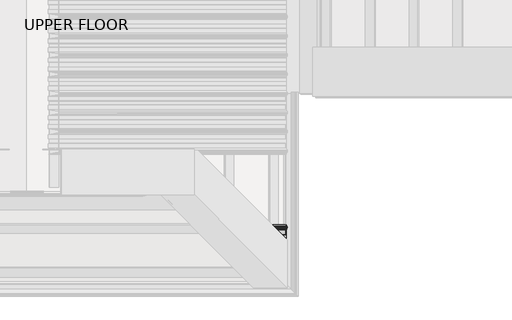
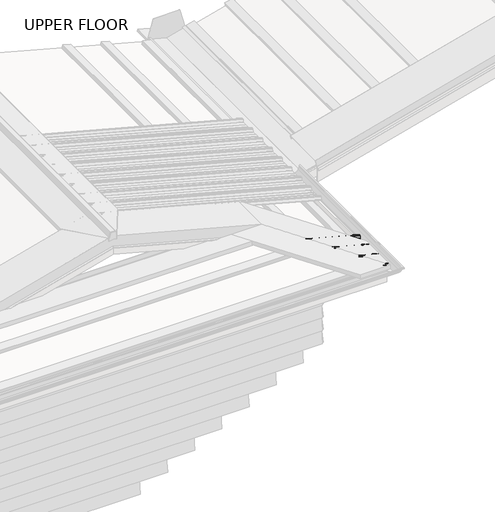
# One storey, part 4 of 8: 1 beam.
"""IFC4 building model written with IfcOpenShell, lengths in millimetres."""

from ifc_helpers import new_model, si_unit, frame, origin, place, context, project, spatial, polyline, circle_curve, ellipse_curve, element, save
from ifc_brep_helpers import plane_surface, cylinder_surface, revolved_surface, advanced_brep

model = new_model("IFC4")

# Units and contexts
model_context = context("Model", 3, world=origin())
ifc_project = project(units=[si_unit("LENGTHUNIT", "METRE", prefix="MILLI")], contexts=[model_context])

# Site, building, storey
site = spatial("IfcSite", under=ifc_project)
building = spatial("IfcBuilding", under=site)
storey = spatial("IfcBuildingStorey", under=building, Name="UPPER FLOOR", Elevation=2700.0)

# Beam
placement = place(None, origin())
element("IfcBeam", 1, ObjectType="3D_Metalcraft T-Rib : 3D_Metalcraft T-Rib", at=placement, inside=storey, context=model_context, shape_type="AdvancedBrep", body=[
    advanced_brep(
    [(-11190.2847188, -26128.4241842, 3266.5991596), (-11190.2847188, -26083.7871546, 3266.5991596), (-11189.8198048, -26080.9661688, 3268.3342426), (-11184.1151497, -26066.3599029, 3289.624305), (-11183.9171679, -26065.2579625, 3290.3631832), (-11183.5554237, -26056.1864455, 3291.7132311), (-11183.9171679, -26047.1149286, 3290.3631832), (-11184.1151497, -26046.0129882, 3289.624305), (-11189.6523711, -26031.8354213, 3268.9591134), (-11189.5093997, -26031.0018416, 3269.4926901), (-11183.9065864, -26045.3473508, 3290.402674), (-11183.7047047, -26046.4036233, 3291.1561068), (-11183.2966046, -26056.1864455, 3292.6791569), (-11183.7047047, -26065.9692678, 3291.1561068), (-11183.9065864, -26067.0255403, 3290.402674), (-11189.6734483, -26081.7910815, 3268.8804523), (-11190.0258998, -26083.8821463, 3267.5650855), (-11190.0258998, -26128.2233714, 3267.5650855), (-11189.5800536, -26132.3395216, 3269.2290062), (-11189.5800536, -26170.0333695, 3269.2290062), (-11190.0258998, -26174.1495197, 3267.5650855), (-11190.0258998, -26216.0914539, 3267.5650855), (-11189.6241453, -26218.3087548, 3269.0644537), (-11183.6182009, -26233.6864455, 3291.4789433), (-11183.2133935, -26235.7739156, 3292.989705), (-11182.7789665, -26246.1864455, 3294.6110086), (-11183.2133935, -26256.5989755, 3292.989705), (-11183.6182009, -26258.6864455, 3291.4789433), (-11189.6241453, -26274.0641363, 3269.0644537), (-11190.0258998, -26276.2814372, 3267.5650855), (-11190.0258998, -26318.2233714, 3267.5650855), (-11189.5800536, -26322.3395216, 3269.2290062), (-11189.5800536, -26360.0333695, 3269.2290062), (-11190.0258998, -26364.1495197, 3267.5650855), (-11190.0258998, -26406.0914539, 3267.5650855), (-11189.6241453, -26408.3087548, 3269.0644537), (-11183.6182009, -26423.6864455, 3291.4789433), (-11183.2133935, -26425.7739156, 3292.989705), (-11182.7789665, -26436.1864455, 3294.6110086), (-11183.2133935, -26446.5989755, 3292.989705), (-11183.6182009, -26448.6864455, 3291.4789433), (-11189.6241453, -26464.0641363, 3269.0644537), (-11190.0258998, -26466.2814372, 3267.5650855), (-11190.0258998, -26508.2233714, 3267.5650855), (-11189.5800536, -26512.3395216, 3269.2290062), (-11189.5800536, -26550.0333695, 3269.2290062), (-11190.0258998, -26554.1495197, 3267.5650855), (-11190.0258998, -26596.0914539, 3267.5650855), (-11189.6241453, -26598.3087548, 3269.0644537), (-11183.6182009, -26613.6864455, 3291.4789433), (-11183.2133935, -26615.7739156, 3292.989705), (-11182.7789665, -26626.1864455, 3294.6110086), (-11183.2133935, -26636.5989755, 3292.989705), (-11183.6182009, -26638.6864455, 3291.4789433), (-11185.7866628, -26644.2386009, 3283.3861334), (-11186.1236029, -26643.9016609, 3282.1286558), (-11183.7636149, -26637.8591199, 3290.9362508), (-11183.459008, -26636.2836425, 3292.0730592), (-11183.0377856, -26626.1864455, 3293.6450828), (-11183.459008, -26616.0892486, 3292.0730592), (-11183.7636149, -26614.5137712, 3290.9362508), (-11189.8198048, -26599.0074314, 3268.3342426), (-11190.2847188, -26596.1864455, 3266.5991596), (-11190.2847188, -26553.9487069, 3266.5991596), (-11189.8388726, -26549.8325567, 3268.2630804), (-11189.8388726, -26512.5403344, 3268.2630804), (-11190.2847188, -26508.4241842, 3266.5991596), (-11190.2847188, -26466.1864455, 3266.5991596), (-11189.8198048, -26463.3654597, 3268.3342426), (-11183.7636149, -26447.8591199, 3290.9362508), (-11183.459008, -26446.2836425, 3292.0730592), (-11183.0377856, -26436.1864455, 3293.6450828), (-11183.459008, -26426.0892486, 3292.0730592), (-11183.7636149, -26424.5137712, 3290.9362508), (-11189.8198048, -26409.0074314, 3268.3342426), (-11190.2847188, -26406.1864455, 3266.5991596), (-11190.2847188, -26363.9487069, 3266.5991596), (-11189.8388726, -26359.8325567, 3268.2630804), (-11189.8388726, -26322.5403344, 3268.2630804), (-11190.2847188, -26318.4241842, 3266.5991596), (-11190.2847188, -26276.1864455, 3266.5991596), (-11189.8198048, -26273.3654597, 3268.3342426), (-11183.7636149, -26257.8591199, 3290.9362508), (-11183.459008, -26256.2836425, 3292.0730592), (-11183.0377856, -26246.1864455, 3293.6450828), (-11183.459008, -26236.0892486, 3292.0730592), (-11183.7636149, -26234.5137712, 3290.9362508), (-11189.8198048, -26219.0074314, 3268.3342426), (-11190.2847188, -26216.1864455, 3266.5991596), (-11190.2847188, -26173.9487069, 3266.5991596), (-11189.8388726, -26169.8325567, 3268.2630804), (-11189.8388726, -26132.5403344, 3268.2630804), (-11697.4849293, -26132.5403344, 3404.2864313), (-11701.6010795, -26128.4241842, 3403.6059656), (-11660.1927071, -26169.8325567, 3394.2940105), (-11656.0765568, -26173.9487069, 3391.4077065), (-11613.8388182, -26216.1864455, 3380.0901385), (-11611.0178324, -26219.0074314, 3381.1939139), (-11595.5114925, -26234.5137712, 3401.2637621), (-11593.9360151, -26236.0892486, 3402.0600418), (-11583.8388182, -26246.1864455, 3401.0393958), (-11573.7416213, -26256.2836425, 3396.6489702), (-11572.1661438, -26257.8591199, 3395.0083948), (-11556.659804, -26273.3654597, 3366.6287242), (-11553.8388182, -26276.1864455, 3364.013187), (-11511.6010795, -26318.4241842, 3352.695619), (-11507.4849293, -26322.5403344, 3353.3760847), (-11470.1927071, -26359.8325567, 3343.3836639), (-11466.0765568, -26363.9487069, 3340.4973599), (-11423.8388182, -26406.1864455, 3329.179792), (-11421.0178324, -26409.0074314, 3330.2835674), (-11405.5114925, -26424.5137712, 3350.3534155), (-11403.9360151, -26426.0892486, 3351.1496952), (-11393.8388182, -26436.1864455, 3350.1290492), (-11383.7416213, -26446.2836425, 3345.7386237), (-11382.1661438, -26447.8591199, 3344.0980482), (-11366.659804, -26463.3654597, 3315.7183776), (-11363.8388182, -26466.1864455, 3313.1028404), (-11321.6010795, -26508.4241842, 3301.7852724), (-11317.4849293, -26512.5403344, 3302.4657382), (-11280.1927071, -26549.8325567, 3292.4733174), (-11276.0765568, -26553.9487069, 3289.5870134), (-11233.8388182, -26596.1864455, 3278.2694454), (-11231.0178323, -26599.0074314, 3279.3732208), (-11215.5114925, -26614.5137712, 3299.443069), (-11213.9360151, -26616.0892486, 3300.2393486), (-11203.8388182, -26626.1864455, 3299.2187027), (-11193.7416213, -26636.2836425, 3294.8282771), (-11192.1661438, -26637.8591199, 3293.1877017), (-11191.3388182, -26638.6864455, 3293.5476765), (-11193.4262882, -26636.5989755, 3295.7262419), (-11203.8388182, -26626.1864455, 3300.2539788), (-11214.2513482, -26615.7739156, 3301.3062999), (-11216.3388182, -26613.6864455, 3300.2464063), (-11231.716509, -26598.3087548, 3280.3430686), (-11233.9338098, -26596.0914539, 3279.3301745), (-11275.875744, -26554.1495197, 3290.5684819), (-11279.9918942, -26550.0333695, 3293.4547859), (-11317.6857421, -26512.3395216, 3303.554822), (-11321.8018924, -26508.2233714, 3302.8743563), (-11363.7438265, -26466.2814372, 3314.1126637), (-11365.9611274, -26464.0641363, 3316.3138057), (-11381.3388182, -26448.6864455, 3344.4580231), (-11383.4262882, -26446.5989755, 3346.6365885), (-11393.8388182, -26436.1864455, 3351.1643254), (-11404.2513482, -26425.7739156, 3352.2166465), (-11406.3388182, -26423.6864455, 3351.1567529), (-11421.716509, -26408.3087548, 3331.2534151), (-11423.9338098, -26406.0914539, 3330.2405211), (-11465.875744, -26364.1495197, 3341.4788285), (-11469.9918942, -26360.0333695, 3344.3651325), (-11507.6857421, -26322.3395216, 3354.4651686), (-11511.8018924, -26318.2233714, 3353.7847028), (-11553.7438265, -26276.2814372, 3365.0230102), (-11555.9611274, -26274.0641363, 3367.2241522), (-11571.3388182, -26258.6864455, 3395.3683696), (-11573.4262882, -26256.5989755, 3397.546935), (-11583.8388182, -26246.1864455, 3402.074672), (-11594.2513482, -26235.7739156, 3403.126993), (-11596.3388182, -26233.6864455, 3402.0670995), (-11611.716509, -26218.3087548, 3382.1637617), (-11613.9338098, -26216.0914539, 3381.1508676), (-11655.875744, -26174.1495197, 3392.389175), (-11659.9918942, -26170.0333695, 3395.275479), (-11697.6857421, -26132.3395216, 3405.3755151), (-11701.8018924, -26128.2233714, 3404.6950494), (-11746.1431174, -26083.8821463, 3416.5762448), (-11748.2341822, -26081.7910815, 3418.5463499), (-11762.9997235, -26067.0255403, 3445.5702125), (-11764.0559959, -26065.9692678, 3446.6607666), (-11773.8388182, -26056.1864455, 3450.9144661), (-11783.6216404, -26046.4036233, 3451.9033653), (-11784.6779129, -26045.3473508, 3451.3788658), (-11799.0234221, -26031.0018416, 3432.8114802), (-11798.1898425, -26031.8354213, 3432.0162374), (-11784.0122755, -26046.0129882, 3450.3662554), (-11782.9103352, -26047.1149286, 3450.8629186), (-11773.8388182, -26056.1864455, 3449.8791899), (-11764.7673012, -26065.2579625, 3446.0015073), (-11763.6653608, -26066.3599029, 3444.914316), (-11749.0590949, -26080.9661688, 3418.1819588), (-11746.2381091, -26083.7871546, 3415.5664216)],
    [
        (0, 1),
        (1, 2, circle_curve(frame((-11189.1617776, -26084.5674758, 3270.7900332), z_axis=(0.9659258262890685, 0.0, -0.2588190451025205), x_axis=(-0.21143792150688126, -0.5767320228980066, -0.7890970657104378)), 4.4083239)),
        (2, 3),
        (3, 4, circle_curve(frame((-11184.3744882, -26064.847858, 3288.6564406), z_axis=(-0.9659258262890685, 0.0, 0.2588190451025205), x_axis=(-0.05851580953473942, -0.9741069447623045, -0.21838397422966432)), 1.8139178)),
        (4, 5, circle_curve(frame((-11191.3457578, -26056.1923604, 3262.6393084), z_axis=(-0.9659258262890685, 0.0, 0.2588190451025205), x_axis=(5.086070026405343e-05, -0.9999999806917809, 0.00018981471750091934)), 30.0995402)),
        (5, 6, circle_curve(frame((-11191.3457578, -26056.1805307, 3262.6393084), z_axis=(-0.9659258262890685, 0.0, 0.2588190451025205), x_axis=(0.07795303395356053, -0.9535649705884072, 0.2909246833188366)), 30.0995402)),
        (6, 7, circle_curve(frame((-11184.3744882, -26047.5250331, 3288.6564406), z_axis=(-0.9659258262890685, 0.0, 0.2588190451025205), x_axis=(0.2157462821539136, -0.5523993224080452, 0.8051760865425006)), 1.8139178)),
        (7, 8),
        (8, 9, circle_curve(frame((-11189.5808854, -26031.4186315, 3269.2259017), z_axis=(0.9659258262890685, 0.0, -0.2588190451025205), x_axis=(-0.21574628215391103, 0.5523993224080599, -0.8051760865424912)), 0.5)),
        (9, 10),
        (10, 11, circle_curve(frame((-11184.1807144, -26046.9456244, 3289.3796144), z_axis=(0.9659258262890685, 0.0, -0.2588190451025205), x_axis=(-0.07316314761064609, 0.9592140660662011, -0.2730485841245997)), 1.9173616)),
        (11, 12, circle_curve(frame((-11191.3457578, -26056.1805307, 3262.6393084), z_axis=(0.9659258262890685, 0.0, -0.2588190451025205), x_axis=(4.922528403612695e-05, 0.9999999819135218, 0.00018371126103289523)), 31.0995402)),
        (12, 13, circle_curve(frame((-11191.3457578, -26056.1923604, 3262.6393084), z_axis=(0.9659258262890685, 0.0, -0.2588190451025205), x_axis=(0.0813661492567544, 0.9492989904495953, 0.30366260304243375)), 31.0995402)),
        (13, 14, circle_curve(frame((-11184.1807144, -26065.4272667, 3289.3796144), z_axis=(0.9659258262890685, 0.0, -0.2588190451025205), x_axis=(0.21574628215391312, 0.5523993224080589, 0.8051760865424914)), 1.9173616)),
        (14, 15),
        (15, 16, circle_curve(frame((-11189.1617776, -26084.5674758, 3270.7900332), z_axis=(-0.9659258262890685, 0.0, 0.2588190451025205), x_axis=(0.05204210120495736, 0.9795758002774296, 0.19422376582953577)), 3.4083239)),
        (16, 17),
        (17, 18),
        (18, 19),
        (19, 20),
        (20, 21),
        (21, 22, circle_curve(frame((-11189.1617776, -26215.4061244, 3270.7900332), z_axis=(-0.9659258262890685, 0.0, 0.2588190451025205), x_axis=(-0.22041802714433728, 0.5241436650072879, -0.8226112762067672)), 3.4083239)),
        (22, 23),
        (23, 24, circle_curve(frame((-11184.227286, -26237.0793711, 3289.2058067), z_axis=(0.9659258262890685, 0.0, -0.2588190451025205), x_axis=(-0.08182671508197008, 0.9487078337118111, -0.30538145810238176)), 4.1291741)),
        (24, 25, circle_curve(frame((-11191.3457578, -26246.1805307, 3262.6393084), z_axis=(0.9659258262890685, 0.0, -0.2588190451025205), x_axis=(4.6250931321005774e-05, 0.999999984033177, 0.0001726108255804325)), 33.0995402)),
        (25, 26, circle_curve(frame((-11191.3457578, -26246.1923604, 3262.6393084), z_axis=(0.9659258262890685, 0.0, -0.2588190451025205), x_axis=(0.08137364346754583, 0.9492894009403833, 0.30369057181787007)), 33.0995402)),
        (26, 27, circle_curve(frame((-11184.227286, -26255.29352, 3289.2058067), z_axis=(0.9659258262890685, 0.0, -0.2588190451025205), x_axis=(0.21267055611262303, 0.5699261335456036, 0.7936973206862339)), 4.1291741)),
        (27, 28),
        (28, 29, circle_curve(frame((-11189.1617776, -26276.9667667, 3270.7900332), z_axis=(-0.9659258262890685, 0.0, 0.2588190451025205), x_axis=(0.05204210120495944, 0.979575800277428, 0.19422376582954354)), 3.4083239)),
        (29, 30),
        (30, 31),
        (31, 32),
        (32, 33),
        (33, 34),
        (34, 35, circle_curve(frame((-11189.1617776, -26405.4061244, 3270.7900332), z_axis=(-0.9659258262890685, 0.0, 0.2588190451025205), x_axis=(-0.22041802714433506, 0.5241436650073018, -0.8226112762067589)), 3.4083239)),
        (35, 36),
        (36, 37, circle_curve(frame((-11184.227286, -26427.0793711, 3289.2058067), z_axis=(0.9659258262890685, 0.0, -0.2588190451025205), x_axis=(-0.08182671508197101, 0.9487078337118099, -0.30538145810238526)), 4.1291741)),
        (37, 38, circle_curve(frame((-11191.3457578, -26436.1805307, 3262.6393084), z_axis=(0.9659258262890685, 0.0, -0.2588190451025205), x_axis=(4.6250931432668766e-05, 0.9999999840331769, 0.00017261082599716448)), 33.0995402)),
        (38, 39, circle_curve(frame((-11191.3457578, -26436.1923604, 3262.6393084), z_axis=(0.9659258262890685, 0.0, -0.2588190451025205), x_axis=(0.08137364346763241, 0.9492894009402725, 0.30369057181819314)), 33.0995402)),
        (39, 40, circle_curve(frame((-11184.227286, -26445.29352, 3289.2058067), z_axis=(0.9659258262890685, 0.0, -0.2588190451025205), x_axis=(0.21267055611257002, 0.569926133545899, 0.793697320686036)), 4.1291741)),
        (40, 41),
        (41, 42, circle_curve(frame((-11189.1617776, -26466.9667667, 3270.7900332), z_axis=(-0.9659258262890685, 0.0, 0.2588190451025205), x_axis=(0.05204210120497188, 0.9795758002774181, 0.19422376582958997)), 3.4083239)),
        (42, 43),
        (43, 44),
        (44, 45),
        (45, 46),
        (46, 47),
        (47, 48, circle_curve(frame((-11189.1617776, -26595.4061244, 3270.7900332), z_axis=(-0.9659258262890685, 0.0, 0.2588190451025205), x_axis=(-0.22041802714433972, 0.5241436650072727, -0.8226112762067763)), 3.4083239)),
        (48, 49),
        (49, 50, circle_curve(frame((-11184.227286, -26617.0793711, 3289.2058067), z_axis=(0.9659258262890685, 0.0, -0.2588190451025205), x_axis=(-0.08182671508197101, 0.9487078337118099, -0.30538145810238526)), 4.1291741)),
        (50, 51, circle_curve(frame((-11191.3457578, -26626.1805307, 3262.6393084), z_axis=(0.9659258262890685, 0.0, -0.2588190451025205), x_axis=(4.6250931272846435e-05, 0.999999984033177, 0.00017261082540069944)), 33.0995402)),
        (51, 52, circle_curve(frame((-11191.3457578, -26626.1923604, 3262.6393084), z_axis=(0.9659258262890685, 0.0, -0.2588190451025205), x_axis=(0.08137364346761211, 0.9492894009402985, 0.30369057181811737)), 33.0995402)),
        (52, 53, circle_curve(frame((-11184.227286, -26635.29352, 3289.2058067), z_axis=(0.9659258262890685, 0.0, -0.2588190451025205), x_axis=(0.21267055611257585, 0.5699261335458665, 0.7936973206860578)), 4.1291741)),
        (53, 54),
        (54, 55),
        (55, 56),
        (56, 57, circle_curve(frame((-11184.227286, -26635.29352, 3289.2058067), z_axis=(-0.9659258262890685, 0.0, 0.2588190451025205), x_axis=(-0.08189462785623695, -0.9486203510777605, -0.3056349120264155)), 3.1291741)),
        (57, 58, circle_curve(frame((-11191.3457578, -26626.1923604, 3262.6393084), z_axis=(-0.9659258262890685, 0.0, 0.2588190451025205), x_axis=(4.769176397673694e-05, -0.9999999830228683, 0.00017798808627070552)), 32.0995402)),
        (58, 59, circle_curve(frame((-11191.3457578, -26626.1805307, 3262.6393084), z_axis=(-0.9659258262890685, 0.0, 0.2588190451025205), x_axis=(0.08136614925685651, -0.9492989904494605, 0.30366260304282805)), 32.0995402)),
        (59, 60, circle_curve(frame((-11184.227286, -26617.0793711, 3289.2058067), z_axis=(-0.9659258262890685, 0.0, 0.2588190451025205), x_axis=(0.2122049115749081, -0.5725113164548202, 0.7919595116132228)), 3.1291741)),
        (60, 61),
        (61, 62, circle_curve(frame((-11189.1617776, -26595.4061244, 3270.7900332), z_axis=(0.9659258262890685, 0.0, -0.2588190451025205), x_axis=(0.045813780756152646, -0.9842088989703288, 0.17097935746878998)), 4.4083239)),
        (62, 63),
        (63, 64),
        (64, 65),
        (65, 66),
        (66, 67),
        (67, 68, circle_curve(frame((-11189.1617776, -26466.9667667, 3270.7900332), z_axis=(0.9659258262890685, 0.0, -0.2588190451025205), x_axis=(-0.2114379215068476, -0.5767320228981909, -0.7890970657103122)), 4.4083239)),
        (68, 69),
        (69, 70, circle_curve(frame((-11184.227286, -26445.29352, 3289.2058067), z_axis=(-0.9659258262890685, 0.0, 0.2588190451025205), x_axis=(-0.08189462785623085, -0.9486203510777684, -0.30563491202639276)), 3.1291741)),
        (70, 71, circle_curve(frame((-11191.3457578, -26436.1923604, 3262.6393084), z_axis=(-0.9659258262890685, 0.0, 0.2588190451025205), x_axis=(4.769176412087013e-05, -0.9999999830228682, 0.0001779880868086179)), 32.0995402)),
        (71, 72, circle_curve(frame((-11191.3457578, -26436.1805307, 3262.6393084), z_axis=(-0.9659258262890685, 0.0, 0.2588190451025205), x_axis=(0.08136614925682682, -0.9492989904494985, 0.3036626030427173)), 32.0995402)),
        (72, 73, circle_curve(frame((-11184.227286, -26427.0793711, 3289.2058067), z_axis=(-0.9659258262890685, 0.0, 0.2588190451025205), x_axis=(0.2122049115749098, -0.5725113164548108, 0.7919595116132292)), 3.1291741)),
        (73, 74),
        (74, 75, circle_curve(frame((-11189.1617776, -26405.4061244, 3270.7900332), z_axis=(0.9659258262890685, 0.0, -0.2588190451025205), x_axis=(0.045813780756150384, -0.9842088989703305, 0.1709793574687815)), 4.4083239)),
        (75, 76),
        (76, 77),
        (77, 78),
        (78, 79),
        (79, 80),
        (80, 81, circle_curve(frame((-11189.1617776, -26276.9667667, 3270.7900332), z_axis=(0.9659258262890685, 0.0, -0.2588190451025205), x_axis=(-0.21143792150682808, -0.5767320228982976, -0.7890970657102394)), 4.4083239)),
        (81, 82),
        (82, 83, circle_curve(frame((-11184.227286, -26255.29352, 3289.2058067), z_axis=(-0.9659258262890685, 0.0, 0.2588190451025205), x_axis=(-0.08189462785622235, -0.9486203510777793, -0.305634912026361)), 3.1291741)),
        (83, 84, circle_curve(frame((-11191.3457578, -26246.1923604, 3262.6393084), z_axis=(-0.9659258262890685, 0.0, 0.2588190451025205), x_axis=(4.7691764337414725e-05, -0.999999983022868, 0.00017798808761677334)), 32.0995402)),
        (84, 85, circle_curve(frame((-11191.3457578, -26246.1805307, 3262.6393084), z_axis=(-0.9659258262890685, 0.0, 0.2588190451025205), x_axis=(0.08136614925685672, -0.9492989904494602, 0.3036626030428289)), 32.0995402)),
        (85, 86, circle_curve(frame((-11184.227286, -26237.0793711, 3289.2058067), z_axis=(-0.9659258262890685, 0.0, 0.2588190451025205), x_axis=(0.21220491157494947, -0.5725113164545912, 0.7919595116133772)), 3.1291741)),
        (86, 87),
        (87, 88, circle_curve(frame((-11189.1617776, -26215.4061244, 3270.7900332), z_axis=(0.9659258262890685, 0.0, -0.2588190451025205), x_axis=(0.045813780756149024, -0.9842088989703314, 0.17097935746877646)), 4.4083239)),
        (88, 89),
        (89, 90),
        (90, 91),
        (91, 0),
        (91, 92),
        (92, 93),
        (93, 0),
        (90, 94),
        (94, 92),
        (89, 95),
        (95, 94),
        (88, 96),
        (96, 95),
        (87, 97),
        (97, 96, ellipse_curve(frame((-11614.6191394, -26215.4061244, 3384.7909897), z_axis=(0.7071067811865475, 0.7071067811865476, 0.0), x_axis=(0.6612248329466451, -0.6612248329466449, -0.35434932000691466)), 6.4542341, 4.4083239)),
        (86, 98),
        (98, 97),
        (85, 99),
        (99, 98, ellipse_curve(frame((-11592.9458926, -26237.0793711, 3398.7216273), z_axis=(-0.7071067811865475, -0.7071067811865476, 0.0), x_axis=(0.6612248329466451, -0.6612248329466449, -0.35434932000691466)), 4.5814288, 3.1291741)),
        (84, 100),
        (100, 99, ellipse_curve(frame((-11583.8447331, -26246.1805307, 3367.8090919), z_axis=(-0.7071067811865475, -0.7071067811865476, 0.0), x_axis=(0.6612248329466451, -0.6612248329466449, -0.35434932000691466)), 46.9969887, 32.0995402)),
        (83, 101),
        (101, 100, ellipse_curve(frame((-11583.8329033, -26246.1923604, 3367.8059221), z_axis=(-0.7071067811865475, -0.7071067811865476, 0.0), x_axis=(0.6612248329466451, -0.6612248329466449, -0.35434932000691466)), 46.9969887, 32.0995402)),
        (82, 102),
        (102, 101, ellipse_curve(frame((-11574.7317437, -26255.29352, 3393.8411608), z_axis=(-0.7071067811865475, -0.7071067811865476, 0.0), x_axis=(0.6612248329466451, -0.6612248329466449, -0.35434932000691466)), 4.5814288, 3.1291741)),
        (81, 103),
        (103, 102),
        (80, 104),
        (104, 103, ellipse_curve(frame((-11553.058497, -26276.9667667, 3368.2958653), z_axis=(0.7071067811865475, 0.7071067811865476, 0.0), x_axis=(0.6612248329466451, -0.6612248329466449, -0.35434932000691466)), 6.4542341, 4.4083239)),
        (79, 105),
        (105, 104),
        (78, 106),
        (106, 105),
        (77, 107),
        (107, 106),
        (76, 108),
        (108, 107),
        (75, 109),
        (109, 108),
        (74, 110),
        (110, 109, ellipse_curve(frame((-11424.6191394, -26405.4061244, 3333.8806432), z_axis=(0.7071067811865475, 0.7071067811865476, 0.0), x_axis=(0.6612248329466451, -0.6612248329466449, -0.35434932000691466)), 6.4542341, 4.4083239)),
        (73, 111),
        (111, 110),
        (72, 112),
        (112, 111, ellipse_curve(frame((-11402.9458926, -26427.0793711, 3347.8112807), z_axis=(-0.7071067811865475, -0.7071067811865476, 0.0), x_axis=(0.6612248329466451, -0.6612248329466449, -0.35434932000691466)), 4.5814288, 3.1291741)),
        (71, 113),
        (113, 112, ellipse_curve(frame((-11393.8447331, -26436.1805307, 3316.8987453), z_axis=(-0.7071067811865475, -0.7071067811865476, 0.0), x_axis=(0.6612248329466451, -0.6612248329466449, -0.35434932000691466)), 46.9969887, 32.0995402)),
        (70, 114),
        (114, 113, ellipse_curve(frame((-11393.8329033, -26436.1923604, 3316.8955755), z_axis=(-0.7071067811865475, -0.7071067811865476, 0.0), x_axis=(0.6612248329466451, -0.6612248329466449, -0.35434932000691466)), 46.9969887, 32.0995402)),
        (69, 115),
        (115, 114, ellipse_curve(frame((-11384.7317437, -26445.29352, 3342.9308142), z_axis=(-0.7071067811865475, -0.7071067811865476, 0.0), x_axis=(0.6612248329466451, -0.6612248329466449, -0.35434932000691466)), 4.5814288, 3.1291741)),
        (68, 116),
        (116, 115),
        (67, 117),
        (117, 116, ellipse_curve(frame((-11363.058497, -26466.9667667, 3317.3855188), z_axis=(0.7071067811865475, 0.7071067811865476, 0.0), x_axis=(0.6612248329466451, -0.6612248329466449, -0.35434932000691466)), 6.4542341, 4.4083239)),
        (66, 118),
        (118, 117),
        (65, 119),
        (119, 118),
        (64, 120),
        (120, 119),
        (63, 121),
        (121, 120),
        (62, 122),
        (122, 121),
        (61, 123),
        (123, 122, ellipse_curve(frame((-11234.6191394, -26595.4061244, 3282.9702966), z_axis=(0.7071067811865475, 0.7071067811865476, 0.0), x_axis=(0.6612248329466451, -0.6612248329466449, -0.35434932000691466)), 6.4542341, 4.4083239)),
        (60, 124),
        (124, 123),
        (59, 125),
        (125, 124, ellipse_curve(frame((-11212.9458926, -26617.0793711, 3296.9009342), z_axis=(-0.7071067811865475, -0.7071067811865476, 0.0), x_axis=(0.6612248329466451, -0.6612248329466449, -0.35434932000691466)), 4.5814288, 3.1291741)),
        (58, 126),
        (126, 125, ellipse_curve(frame((-11203.8447331, -26626.1805307, 3265.9883987), z_axis=(-0.7071067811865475, -0.7071067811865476, 0.0), x_axis=(0.6612248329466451, -0.6612248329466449, -0.35434932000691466)), 46.9969887, 32.0995402)),
        (57, 127),
        (127, 126, ellipse_curve(frame((-11203.8329033, -26626.1923604, 3265.985229), z_axis=(-0.7071067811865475, -0.7071067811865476, 0.0), x_axis=(0.6612248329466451, -0.6612248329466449, -0.35434932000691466)), 46.9969887, 32.0995402)),
        (56, 128),
        (128, 127, ellipse_curve(frame((-11194.7317437, -26635.29352, 3292.0204677), z_axis=(-0.7071067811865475, -0.7071067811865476, 0.0), x_axis=(0.6612248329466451, -0.6612248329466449, -0.35434932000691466)), 4.5814288, 3.1291741)),
        (55, 128),
        (53, 129),
        (129, 54),
        (52, 130),
        (130, 129, ellipse_curve(frame((-11194.7317437, -26635.29352, 3292.0204677), z_axis=(0.7071067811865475, 0.7071067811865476, 0.0), x_axis=(0.6612248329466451, -0.6612248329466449, -0.35434932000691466)), 6.0455304, 4.1291741)),
        (51, 131),
        (131, 130, ellipse_curve(frame((-11203.8329033, -26626.1923604, 3265.985229), z_axis=(0.7071067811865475, 0.7071067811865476, 0.0), x_axis=(0.6612248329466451, -0.6612248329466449, -0.35434932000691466)), 48.4610903, 33.0995402)),
        (50, 132),
        (132, 131, ellipse_curve(frame((-11203.8447331, -26626.1805307, 3265.9883987), z_axis=(0.7071067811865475, 0.7071067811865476, 0.0), x_axis=(0.6612248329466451, -0.6612248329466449, -0.35434932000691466)), 48.4610903, 33.0995402)),
        (49, 133),
        (133, 132, ellipse_curve(frame((-11212.9458926, -26617.0793711, 3296.9009342), z_axis=(0.7071067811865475, 0.7071067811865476, 0.0), x_axis=(0.6612248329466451, -0.6612248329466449, -0.35434932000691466)), 6.0455304, 4.1291741)),
        (48, 134),
        (134, 133),
        (47, 135),
        (135, 134, ellipse_curve(frame((-11234.6191394, -26595.4061244, 3282.9702966), z_axis=(-0.7071067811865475, -0.7071067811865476, 0.0), x_axis=(0.6612248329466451, -0.6612248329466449, -0.35434932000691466)), 4.9901325, 3.4083239)),
        (46, 136),
        (136, 135),
        (45, 137),
        (137, 136),
        (44, 138),
        (138, 137),
        (43, 139),
        (139, 138),
        (42, 140),
        (140, 139),
        (41, 141),
        (141, 140, ellipse_curve(frame((-11363.058497, -26466.9667667, 3317.3855188), z_axis=(-0.7071067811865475, -0.7071067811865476, 0.0), x_axis=(0.6612248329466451, -0.6612248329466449, -0.35434932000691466)), 4.9901325, 3.4083239)),
        (40, 142),
        (142, 141),
        (39, 143),
        (143, 142, ellipse_curve(frame((-11384.7317437, -26445.29352, 3342.9308142), z_axis=(0.7071067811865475, 0.7071067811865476, 0.0), x_axis=(0.6612248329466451, -0.6612248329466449, -0.35434932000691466)), 6.0455304, 4.1291741)),
        (38, 144),
        (144, 143, ellipse_curve(frame((-11393.8329033, -26436.1923604, 3316.8955755), z_axis=(0.7071067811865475, 0.7071067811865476, 0.0), x_axis=(0.6612248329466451, -0.6612248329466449, -0.35434932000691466)), 48.4610903, 33.0995402)),
        (37, 145),
        (145, 144, ellipse_curve(frame((-11393.8447331, -26436.1805307, 3316.8987453), z_axis=(0.7071067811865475, 0.7071067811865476, 0.0), x_axis=(0.6612248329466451, -0.6612248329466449, -0.35434932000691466)), 48.4610903, 33.0995402)),
        (36, 146),
        (146, 145, ellipse_curve(frame((-11402.9458926, -26427.0793711, 3347.8112807), z_axis=(0.7071067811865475, 0.7071067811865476, 0.0), x_axis=(0.6612248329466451, -0.6612248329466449, -0.35434932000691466)), 6.0455304, 4.1291741)),
        (35, 147),
        (147, 146),
        (34, 148),
        (148, 147, ellipse_curve(frame((-11424.6191394, -26405.4061244, 3333.8806432), z_axis=(-0.7071067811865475, -0.7071067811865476, 0.0), x_axis=(0.6612248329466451, -0.6612248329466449, -0.35434932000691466)), 4.9901325, 3.4083239)),
        (33, 149),
        (149, 148),
        (32, 150),
        (150, 149),
        (31, 151),
        (151, 150),
        (30, 152),
        (152, 151),
        (29, 153),
        (153, 152),
        (28, 154),
        (154, 153, ellipse_curve(frame((-11553.058497, -26276.9667667, 3368.2958653), z_axis=(-0.7071067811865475, -0.7071067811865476, 0.0), x_axis=(0.6612248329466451, -0.6612248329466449, -0.35434932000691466)), 4.9901325, 3.4083239)),
        (27, 155),
        (155, 154),
        (26, 156),
        (156, 155, ellipse_curve(frame((-11574.7317437, -26255.29352, 3393.8411608), z_axis=(0.7071067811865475, 0.7071067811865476, 0.0), x_axis=(0.6612248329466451, -0.6612248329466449, -0.35434932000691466)), 6.0455304, 4.1291741)),
        (25, 157),
        (157, 156, ellipse_curve(frame((-11583.8329033, -26246.1923604, 3367.8059221), z_axis=(0.7071067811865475, 0.7071067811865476, 0.0), x_axis=(0.6612248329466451, -0.6612248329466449, -0.35434932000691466)), 48.4610903, 33.0995402)),
        (24, 158),
        (158, 157, ellipse_curve(frame((-11583.8447331, -26246.1805307, 3367.8090919), z_axis=(0.7071067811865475, 0.7071067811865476, 0.0), x_axis=(0.6612248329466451, -0.6612248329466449, -0.35434932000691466)), 48.4610903, 33.0995402)),
        (23, 159),
        (159, 158, ellipse_curve(frame((-11592.9458926, -26237.0793711, 3398.7216273), z_axis=(0.7071067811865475, 0.7071067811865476, 0.0), x_axis=(0.6612248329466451, -0.6612248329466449, -0.35434932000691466)), 6.0455304, 4.1291741)),
        (22, 160),
        (160, 159),
        (21, 161),
        (161, 160, ellipse_curve(frame((-11614.6191394, -26215.4061244, 3384.7909897), z_axis=(-0.7071067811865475, -0.7071067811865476, 0.0), x_axis=(0.6612248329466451, -0.6612248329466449, -0.35434932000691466)), 4.9901325, 3.4083239)),
        (20, 162),
        (162, 161),
        (19, 163),
        (163, 162),
        (18, 164),
        (164, 163),
        (17, 165),
        (165, 164),
        (16, 166),
        (166, 165),
        (15, 167),
        (167, 166, ellipse_curve(frame((-11745.4577879, -26084.5674758, 3419.8490999), z_axis=(-0.7071067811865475, -0.7071067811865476, 0.0), x_axis=(0.6612248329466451, -0.6612248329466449, -0.35434932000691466)), 4.9901325, 3.4083239)),
        (14, 168),
        (168, 167),
        (13, 169),
        (169, 168, ellipse_curve(frame((-11764.597997, -26065.4272667, 3444.9019566), z_axis=(0.7071067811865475, 0.7071067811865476, 0.0), x_axis=(0.6612248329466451, -0.6612248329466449, -0.35434932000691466)), 2.8072122, 1.9173616)),
        (12, 170),
        (170, 169, ellipse_curve(frame((-11773.8329033, -26056.1923604, 3418.7162686), z_axis=(0.7071067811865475, 0.7071067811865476, 0.0), x_axis=(0.6612248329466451, -0.6612248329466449, -0.35434932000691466)), 45.532887, 31.0995402)),
        (11, 171),
        (171, 170, ellipse_curve(frame((-11773.8447331, -26056.1805307, 3418.7194384), z_axis=(0.7071067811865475, 0.7071067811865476, 0.0), x_axis=(0.6612248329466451, -0.6612248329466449, -0.35434932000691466)), 45.532887, 31.0995402)),
        (10, 172),
        (172, 171, ellipse_curve(frame((-11783.0796393, -26046.9456244, 3449.8540977), z_axis=(0.7071067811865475, 0.7071067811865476, 0.0), x_axis=(0.6612248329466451, -0.6612248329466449, -0.35434932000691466)), 2.8072122, 1.9173616)),
        (9, 173),
        (173, 172),
        (8, 174),
        (174, 173, ellipse_curve(frame((-11798.6066323, -26031.4186315, 3432.4138588), z_axis=(0.7071067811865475, 0.7071067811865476, 0.0), x_axis=(0.6612248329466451, -0.6612248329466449, -0.35434932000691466)), 0.7320508, 0.5)),
        (7, 175),
        (175, 174),
        (6, 176),
        (176, 175, ellipse_curve(frame((-11782.5002306, -26047.5250331, 3448.9237503), z_axis=(-0.7071067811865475, -0.7071067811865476, 0.0), x_axis=(0.6612248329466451, -0.6612248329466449, -0.35434932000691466)), 2.65576, 1.8139178)),
        (5, 177),
        (177, 176, ellipse_curve(frame((-11773.8447331, -26056.1805307, 3418.7194384), z_axis=(-0.7071067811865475, -0.7071067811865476, 0.0), x_axis=(0.6612248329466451, -0.6612248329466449, -0.35434932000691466)), 44.0687854, 30.0995402)),
        (4, 178),
        (178, 177, ellipse_curve(frame((-11773.8329033, -26056.1923604, 3418.7162686), z_axis=(-0.7071067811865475, -0.7071067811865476, 0.0), x_axis=(0.6612248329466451, -0.6612248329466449, -0.35434932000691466)), 44.0687854, 30.0995402)),
        (3, 179),
        (179, 178, ellipse_curve(frame((-11765.1774058, -26064.847858, 3444.2821133), z_axis=(-0.7071067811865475, -0.7071067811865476, 0.0), x_axis=(0.6612248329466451, -0.6612248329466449, -0.35434932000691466)), 2.65576, 1.8139178)),
        (2, 180),
        (180, 179),
        (1, 181),
        (181, 180, ellipse_curve(frame((-11745.4577879, -26084.5674758, 3419.8490999), z_axis=(0.7071067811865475, 0.7071067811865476, 0.0), x_axis=(0.6612248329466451, -0.6612248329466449, -0.35434932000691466)), 6.4542341, 4.4083239)),
        (93, 181),
    ],
    [
        plane_surface(frame((-11190.2847188, -26128.4241842, 3266.5991596), z_axis=(0.9659258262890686, 0.0, -0.2588190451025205), x_axis=(-0.09991905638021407, 0.9224746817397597, -0.37290299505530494))),
        plane_surface(frame((-12286.4854555, -26130.4822593, 3561.2169542), z_axis=(-0.2387540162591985, -0.38605758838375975, -0.8910421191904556), x_axis=(0.09991905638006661, -0.9224746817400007, 0.37290299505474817))),
        plane_surface(frame((-12286.2625324, -26151.1864455, 3562.0489146), z_axis=(-0.2588190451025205, 0.0, -0.9659258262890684), x_axis=(0.0, -1.0, 0.0))),
        plane_surface(frame((-12286.4854555, -26171.8906318, 3561.2169542), z_axis=(-0.23875401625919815, 0.386057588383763, -0.8910421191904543), x_axis=(-0.09991905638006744, -0.9224746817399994, -0.3729029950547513))),
        plane_surface(frame((-12286.7083787, -26195.0675762, 3560.3849939), z_axis=(-0.2588190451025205, 0.0, -0.9659258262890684), x_axis=(0.0, -1.0, 0.0))),
        cylinder_surface(frame((-12285.5854375, -26215.4061244, 3564.5758675), z_axis=(0.9659258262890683, 0.0, -0.25881904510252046), x_axis=(0.045813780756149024, -0.9842088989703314, 0.17097935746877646)), 4.4083239),
        plane_surface(frame((-12283.2153697, -26226.7606013, 3573.4210809), z_axis=(-0.14297146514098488, -0.8335796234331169, -0.5335767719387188), x_axis=(0.21574628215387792, -0.5523993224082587, 0.8051760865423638))),
        revolved_surface(polyline([(-11183.56325988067, -26238.870858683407, 3291.6839858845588), (-11595.514149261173, -26238.870858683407, 3402.0658940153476)]), (-12280.6509458, -26237.0793711, 3582.9916409), (0.9659258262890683, 0.0, -0.25881904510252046)),
        revolved_surface(polyline([(-11188.733941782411, -26276.652591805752, 3272.3867383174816), (-11614.390162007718, -26276.652591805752, 3386.4409787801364)]), (-12287.7694176, -26246.1805307, 3556.4251426), (0.9659258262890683, 0.0, -0.25881904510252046)),
        revolved_surface(polyline([(-11191.344226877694, -26278.291900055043, 3262.6450217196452), (-11616.988617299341, -26278.291900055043, 3376.6960923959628)]), (-12287.7694176, -26246.1923604, 3556.4251426), (0.9659258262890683, 0.0, -0.25881904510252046)),
        revolved_surface(polyline([(-11184.48354854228, -26258.261918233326, 3288.249421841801), (-11578.220289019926, -26258.261918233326, 3393.7508634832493)]), (-12280.6509458, -26255.29352, 3582.9916409), (0.9659258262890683, 0.0, -0.25881904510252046)),
        plane_surface(frame((-12283.2153697, -26265.6122898, 3573.4210809), z_axis=(-0.14297146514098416, 0.8335796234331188, -0.5335767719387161), x_axis=(-0.2157462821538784, -0.552399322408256, -0.8051760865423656))),
        cylinder_surface(frame((-12285.5854375, -26276.9667667, 3564.5758675), z_axis=(0.9659258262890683, 0.0, -0.25881904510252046), x_axis=(-0.21143792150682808, -0.5767320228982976, -0.7890970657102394)), 4.4083239),
        plane_surface(frame((-12286.7083787, -26297.3053149, 3560.3849939), z_axis=(-0.2588190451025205, 0.0, -0.9659258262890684), x_axis=(0.0, -1.0, 0.0))),
        plane_surface(frame((-12286.4854555, -26320.4822593, 3561.2169542), z_axis=(-0.2387540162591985, -0.3860575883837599, -0.8910421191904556), x_axis=(0.09991905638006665, -0.9224746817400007, 0.37290299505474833))),
        plane_surface(frame((-12286.2625324, -26341.1864455, 3562.0489146), z_axis=(-0.2588190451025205, 0.0, -0.9659258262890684), x_axis=(0.0, -1.0, 0.0))),
        plane_surface(frame((-12286.4854555, -26361.8906318, 3561.2169542), z_axis=(-0.2387540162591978, 0.38605758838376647, -0.891042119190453), x_axis=(-0.09991905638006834, -0.9224746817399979, -0.37290299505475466))),
        plane_surface(frame((-12286.7083787, -26385.0675762, 3560.3849939), z_axis=(-0.2588190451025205, 0.0, -0.9659258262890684), x_axis=(0.0, -1.0, 0.0))),
        cylinder_surface(frame((-12285.5854375, -26405.4061244, 3564.5758675), z_axis=(0.9659258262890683, 0.0, -0.25881904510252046), x_axis=(0.045813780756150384, -0.9842088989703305, 0.1709793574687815)), 4.4083239),
        plane_surface(frame((-12283.2153697, -26416.7606013, 3573.4210809), z_axis=(-0.14297146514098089, -0.8335796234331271, -0.5335767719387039), x_axis=(0.21574628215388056, -0.5523993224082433, 0.8051760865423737))),
        revolved_surface(polyline([(-11183.56325988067, -26428.870858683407, 3291.6839858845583), (-11405.514149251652, -26428.870858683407, 3351.1555474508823)]), (-12280.6509458, -26427.0793711, 3582.9916409), (0.9659258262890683, 0.0, -0.25881904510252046)),
        revolved_surface(polyline([(-11188.733941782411, -26466.652591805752, 3272.386738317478), (-11424.390161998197, -26466.652591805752, 3335.5306322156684)]), (-12287.7694176, -26436.1805307, 3556.4251426), (0.9659258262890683, 0.0, -0.25881904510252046)),
        revolved_surface(polyline([(-11191.344226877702, -26468.291900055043, 3262.6450217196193), (-11426.988617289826, -26468.291900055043, 3325.7857458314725)]), (-12287.7694176, -26436.1923604, 3556.4251426), (0.9659258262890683, 0.0, -0.25881904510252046)),
        revolved_surface(polyline([(-11184.48354854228, -26448.261918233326, 3288.249421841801), (-11388.220289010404, -26448.261918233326, 3342.8405169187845)]), (-12280.6509458, -26445.29352, 3582.9916409), (0.9659258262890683, 0.0, -0.25881904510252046)),
        plane_surface(frame((-12283.2153697, -26455.6122898, 3573.4210809), z_axis=(-0.14297146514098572, 0.8335796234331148, -0.5335767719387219), x_axis=(-0.21574628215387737, -0.552399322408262, -0.8051760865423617))),
        cylinder_surface(frame((-12285.5854375, -26466.9667667, 3564.5758675), z_axis=(0.9659258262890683, 0.0, -0.25881904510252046), x_axis=(-0.2114379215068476, -0.5767320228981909, -0.7890970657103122)), 4.4083239),
        plane_surface(frame((-12286.7083787, -26487.3053149, 3560.3849939), z_axis=(-0.2588190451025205, 0.0, -0.9659258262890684), x_axis=(0.0, -1.0, 0.0))),
        plane_surface(frame((-12286.4854555, -26510.4822593, 3561.2169542), z_axis=(-0.23875401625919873, -0.3860575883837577, -0.8910421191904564), x_axis=(0.09991905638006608, -0.9224746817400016, 0.37290299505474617))),
        plane_surface(frame((-12286.2625324, -26531.1864455, 3562.0489146), z_axis=(-0.2588190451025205, 0.0, -0.9659258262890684), x_axis=(0.0, -1.0, 0.0))),
        plane_surface(frame((-12286.4854555, -26551.8906318, 3561.2169542), z_axis=(-0.23875401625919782, 0.3860575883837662, -0.8910421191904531), x_axis=(-0.09991905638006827, -0.922474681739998, -0.3729029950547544))),
        plane_surface(frame((-12286.7083787, -26575.0675762, 3560.3849939), z_axis=(-0.2588190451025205, 0.0, -0.9659258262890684), x_axis=(0.0, -1.0, 0.0))),
        cylinder_surface(frame((-12285.5854375, -26595.4061244, 3564.5758675), z_axis=(0.9659258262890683, 0.0, -0.25881904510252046), x_axis=(0.045813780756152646, -0.9842088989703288, 0.17097935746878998)), 4.4083239),
        plane_surface(frame((-12283.2153697, -26606.7606013, 3573.4210809), z_axis=(-0.1429714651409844, -0.8335796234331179, -0.533576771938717), x_axis=(0.21574628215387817, -0.5523993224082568, 0.8051760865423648))),
        revolved_surface(polyline([(-11183.56325988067, -26618.870858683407, 3291.6839858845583), (-11215.51414926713, -26618.870858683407, 3300.245200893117)]), (-12280.6509458, -26617.0793711, 3582.9916409), (0.9659258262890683, 0.0, -0.25881904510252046)),
        revolved_surface(polyline([(-11168.075672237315, -26656.652591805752, 3266.8513716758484), (-11234.390161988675, -26656.652591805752, 3284.6202856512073)]), (-12287.7694176, -26626.1805307, 3556.4251426), (0.9659258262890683, 0.0, -0.25881904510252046)),
        revolved_surface(polyline([(-11170.674127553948, -26658.291900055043, 3257.1064852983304), (-11236.98861730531, -26658.291900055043, 3274.8753992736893)]), (-12287.7694176, -26626.1923604, 3556.4251426), (0.9659258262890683, 0.0, -0.25881904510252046)),
        revolved_surface(polyline([(-11184.48354854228, -26638.261918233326, 3288.249421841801), (-11198.220289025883, -26638.261918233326, 3291.9301703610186)]), (-12280.6509458, -26635.29352, 3582.9916409), (0.9659258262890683, 0.0, -0.25881904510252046)),
        plane_surface(frame((-12283.2153697, -26645.6122898, 3573.4210809), z_axis=(-0.1429714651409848, 0.8335796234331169, -0.5335767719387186), x_axis=(-0.21574628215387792, -0.5523993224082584, -0.8051760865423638))),
        plane_surface(frame((-12283.0448329, -26646.3752909, 3574.0575327), z_axis=(0.14297146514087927, -0.8335796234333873, 0.5335767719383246), x_axis=(0.21574628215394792, 0.5523993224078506, 0.8051760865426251))),
        cylinder_surface(frame((-12280.6509458, -26635.29352, 3582.9916409), z_axis=(0.9659258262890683, 0.0, -0.25881904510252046), x_axis=(0.21267055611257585, 0.5699261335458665, 0.7936973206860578)), 4.1291741),
        cylinder_surface(frame((-12287.7694176, -26626.1923604, 3556.4251426), z_axis=(0.9659258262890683, 0.0, -0.25881904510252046), x_axis=(0.08137364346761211, 0.9492894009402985, 0.30369057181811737)), 33.0995402),
        cylinder_surface(frame((-12287.7694176, -26626.1805307, 3556.4251426), z_axis=(0.9659258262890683, 0.0, -0.25881904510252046), x_axis=(4.6250931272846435e-05, 0.999999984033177, 0.00017261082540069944)), 33.0995402),
        cylinder_surface(frame((-12280.6509458, -26617.0793711, 3582.9916409), z_axis=(0.9659258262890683, 0.0, -0.25881904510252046), x_axis=(-0.08182671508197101, 0.9487078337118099, -0.30538145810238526)), 4.1291741),
        plane_surface(frame((-12283.0448329, -26605.9976002, 3574.0575327), z_axis=(0.1429714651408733, 0.8335796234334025, 0.5335767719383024), x_axis=(-0.21574628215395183, 0.5523993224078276, -0.8051760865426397))),
        revolved_surface(polyline([(-11189.913033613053, -26593.619673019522, 3267.9863075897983), (-11238.891026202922, -26593.619673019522, 3281.1099211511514)]), (-12285.5854375, -26595.4061244, 3564.5758675), (0.9659258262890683, 0.0, -0.25881904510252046)),
        plane_surface(frame((-12286.4495596, -26575.1204868, 3561.3509197), z_axis=(0.2588190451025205, 0.0, 0.9659258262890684), x_axis=(0.0, 1.0, 0.0))),
        plane_surface(frame((-12286.2266365, -26552.0914446, 3562.18288), z_axis=(0.23875401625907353, -0.38605758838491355, 0.8910421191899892), x_axis=(0.09991905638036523, 0.9224746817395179, 0.37290299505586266))),
        plane_surface(frame((-12286.0037134, -26531.1864455, 3563.0148404), z_axis=(0.2588190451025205, 0.0, 0.9659258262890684), x_axis=(0.0, 1.0, 0.0))),
        plane_surface(frame((-12286.2266365, -26510.2814465, 3562.18288), z_axis=(0.23875401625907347, 0.38605758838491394, 0.891042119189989), x_axis=(-0.09991905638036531, 0.9224746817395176, -0.372902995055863))),
        plane_surface(frame((-12286.4495596, -26487.2524043, 3561.3509197), z_axis=(0.2588190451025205, 0.0, 0.9659258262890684), x_axis=(0.0, 1.0, 0.0))),
        revolved_surface(polyline([(-11188.984401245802, -26463.62805508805, 3271.452010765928), (-11366.401751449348, -26463.62805508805, 3318.990846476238)]), (-12285.5854375, -26466.9667667, 3564.5758675), (0.9659258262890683, 0.0, -0.25881904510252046)),
        plane_surface(frame((-12283.0448329, -26456.3752909, 3574.0575327), z_axis=(0.14297146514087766, -0.8335796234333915, 0.5335767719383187), x_axis=(0.215746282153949, 0.5523993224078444, 0.8051760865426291))),
        cylinder_surface(frame((-12280.6509458, -26445.29352, 3582.9916409), z_axis=(0.9659258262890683, 0.0, -0.25881904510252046), x_axis=(0.21267055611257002, 0.569926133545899, 0.793697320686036)), 4.1291741),
        cylinder_surface(frame((-12287.7694176, -26436.1923604, 3556.4251426), z_axis=(0.9659258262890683, 0.0, -0.25881904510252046), x_axis=(0.08137364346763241, 0.9492894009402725, 0.30369057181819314)), 33.0995402),
        cylinder_surface(frame((-12287.7694176, -26436.1805307, 3556.4251426), z_axis=(0.9659258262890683, 0.0, -0.25881904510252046), x_axis=(4.6250931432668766e-05, 0.9999999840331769, 0.00017261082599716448)), 33.0995402),
        cylinder_surface(frame((-12280.6509458, -26427.0793711, 3582.9916409), z_axis=(0.9659258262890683, 0.0, -0.25881904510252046), x_axis=(-0.08182671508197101, 0.9487078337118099, -0.30538145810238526)), 4.1291741),
        plane_surface(frame((-12283.0448329, -26415.9976002, 3574.0575327), z_axis=(0.14297146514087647, 0.8335796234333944, 0.5335767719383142), x_axis=(-0.21574628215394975, 0.5523993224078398, -0.805176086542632))),
        revolved_surface(polyline([(-11189.913033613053, -26403.619673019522, 3267.9863075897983), (-11428.891026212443, -26403.619673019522, 3332.020267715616)]), (-12285.5854375, -26405.4061244, 3564.5758675), (0.9659258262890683, 0.0, -0.25881904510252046)),
        plane_surface(frame((-12286.4495596, -26385.1204868, 3561.3509197), z_axis=(0.2588190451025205, 0.0, 0.9659258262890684), x_axis=(0.0, 1.0, 0.0))),
        plane_surface(frame((-12286.2266365, -26362.0914446, 3562.18288), z_axis=(0.23875401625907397, -0.38605758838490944, 0.8910421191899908), x_axis=(0.09991905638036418, 0.9224746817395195, 0.3729029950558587))),
        plane_surface(frame((-12286.0037134, -26341.1864455, 3563.0148404), z_axis=(0.2588190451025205, 0.0, 0.9659258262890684), x_axis=(0.0, 1.0, 0.0))),
        plane_surface(frame((-12286.2266365, -26320.2814465, 3562.18288), z_axis=(0.2387540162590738, 0.3860575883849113, 0.8910421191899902), x_axis=(-0.09991905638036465, 0.9224746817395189, -0.37290299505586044))),
        plane_surface(frame((-12286.4495596, -26297.2524043, 3561.3509197), z_axis=(0.2588190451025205, 0.0, 0.9659258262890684), x_axis=(0.0, 1.0, 0.0))),
        revolved_surface(polyline([(-11188.984401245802, -26273.62805508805, 3271.452010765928), (-11556.401751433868, -26273.62805508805, 3369.901193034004)]), (-12285.5854375, -26276.9667667, 3564.5758675), (0.9659258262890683, 0.0, -0.25881904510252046)),
        plane_surface(frame((-12283.0448329, -26266.3752909, 3574.0575327), z_axis=(0.14297146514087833, -0.8335796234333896, 0.5335767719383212), x_axis=(0.21574628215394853, 0.5523993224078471, 0.8051760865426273))),
        cylinder_surface(frame((-12280.6509458, -26255.29352, 3582.9916409), z_axis=(0.9659258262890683, 0.0, -0.25881904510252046), x_axis=(0.21267055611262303, 0.5699261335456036, 0.7936973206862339)), 4.1291741),
        cylinder_surface(frame((-12287.7694176, -26246.1923604, 3556.4251426), z_axis=(0.9659258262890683, 0.0, -0.25881904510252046), x_axis=(0.08137364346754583, 0.9492894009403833, 0.30369057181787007)), 33.0995402),
        cylinder_surface(frame((-12287.7694176, -26246.1805307, 3556.4251426), z_axis=(0.9659258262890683, 0.0, -0.25881904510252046), x_axis=(4.6250931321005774e-05, 0.999999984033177, 0.0001726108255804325)), 33.0995402),
        cylinder_surface(frame((-12280.6509458, -26237.0793711, 3582.9916409), z_axis=(0.9659258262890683, 0.0, -0.25881904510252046), x_axis=(-0.08182671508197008, 0.9487078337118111, -0.30538145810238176)), 4.1291741),
        plane_surface(frame((-12283.0448329, -26225.9976002, 3574.0575327), z_axis=(0.14297146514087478, 0.8335796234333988, 0.5335767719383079), x_axis=(-0.21574628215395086, 0.5523993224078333, -0.8051760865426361))),
        revolved_surface(polyline([(-11189.913033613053, -26213.619673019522, 3267.9863075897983), (-11618.891026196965, -26213.619673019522, 3382.9306142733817)]), (-12285.5854375, -26215.4061244, 3564.5758675), (0.9659258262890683, 0.0, -0.25881904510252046)),
        plane_surface(frame((-12286.4495596, -26195.1204868, 3561.3509197), z_axis=(0.2588190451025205, 0.0, 0.9659258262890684), x_axis=(0.0, 1.0, 0.0))),
        plane_surface(frame((-12286.2266365, -26172.0914446, 3562.18288), z_axis=(0.23875401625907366, -0.3860575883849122, 0.8910421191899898), x_axis=(0.09991905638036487, 0.9224746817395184, 0.37290299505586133))),
        plane_surface(frame((-12286.0037134, -26151.1864455, 3563.0148404), z_axis=(0.2588190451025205, 0.0, 0.9659258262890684), x_axis=(0.0, 1.0, 0.0))),
        plane_surface(frame((-12286.2266365, -26130.2814465, 3562.18288), z_axis=(0.23875401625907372, 0.38605758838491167, 0.89104211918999), x_axis=(-0.09991905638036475, 0.9224746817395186, -0.37290299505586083))),
        plane_surface(frame((-12286.4495596, -26106.0527588, 3561.3509197), z_axis=(0.2588190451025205, 0.0, 0.9659258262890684), x_axis=(0.0, 1.0, 0.0))),
        revolved_surface(polyline([(-11188.984401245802, -26081.22876418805, 3271.452010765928), (-11748.801042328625, -26081.22876418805, 3421.454427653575)]), (-12285.5854375, -26084.5674758, 3564.5758675), (0.9659258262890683, 0.0, -0.25881904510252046)),
        plane_surface(frame((-12283.2136772, -26074.4083109, 3573.4273974), z_axis=(0.1429714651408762, -0.8335796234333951, 0.5335767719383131), x_axis=(0.21574628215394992, 0.5523993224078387, 0.8051760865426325))),
        cylinder_surface(frame((-12280.6043742, -26065.4272667, 3583.1654486), z_axis=(0.9659258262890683, 0.0, -0.25881904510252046), x_axis=(0.21574628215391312, 0.5523993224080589, 0.8051760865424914)), 1.9173616),
        cylinder_surface(frame((-12287.7694176, -26056.1923604, 3556.4251426), z_axis=(0.9659258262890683, 0.0, -0.25881904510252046), x_axis=(0.0813661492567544, 0.9492989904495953, 0.30366260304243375)), 31.0995402),
        cylinder_surface(frame((-12287.7694176, -26056.1805307, 3556.4251426), z_axis=(0.9659258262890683, 0.0, -0.25881904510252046), x_axis=(4.922528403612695e-05, 0.9999999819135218, 0.00018371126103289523)), 31.0995402),
        cylinder_surface(frame((-12280.6043742, -26046.9456244, 3583.1654486), z_axis=(0.9659258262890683, 0.0, -0.25881904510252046), x_axis=(-0.07316314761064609, 0.9592140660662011, -0.2730485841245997)), 1.9173616),
        plane_surface(frame((-12283.1316528, -26038.1745962, 3573.7335163), z_axis=(0.14297146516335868, 0.8335796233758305, 0.533576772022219), x_axis=(-0.21574628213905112, 0.5523993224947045, -0.8051760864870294))),
        cylinder_surface(frame((-12286.0045452, -26031.4186315, 3563.011736), z_axis=(0.9659258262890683, 0.0, -0.25881904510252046), x_axis=(-0.21574628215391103, 0.5523993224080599, -0.8051760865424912)), 0.5),
        plane_surface(frame((-12283.3074203, -26038.9242047, 3573.0775434), z_axis=(-0.14297146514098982, -0.8335796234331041, -0.5335767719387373), x_axis=(0.21574628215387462, -0.5523993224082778, 0.8051760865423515))),
        revolved_surface(polyline([(-11183.983142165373, -26048.527040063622, 3290.1169638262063), (-11783.982572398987, -26048.527040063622, 3450.8863266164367)]), (-12280.798148, -26047.5250331, 3582.4422748), (0.9659258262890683, 0.0, -0.25881904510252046)),
        revolved_surface(polyline([(-11188.9994072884, -26084.88239786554, 3271.3960075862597), (-11802.589725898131, -26084.88239786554, 3435.8070379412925)]), (-12287.7694176, -26056.1805307, 3556.4251426), (0.9659258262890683, 0.0, -0.25881904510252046)),
        revolved_surface(polyline([(-11191.344226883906, -26086.29190001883, 3262.6450217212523), (-11804.922715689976, -26086.29190001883, 3427.052882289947)]), (-12287.7694176, -26056.1923604, 3556.4251426), (0.9659258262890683, 0.0, -0.25881904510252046)),
        revolved_surface(polyline([(-11184.480631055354, -26066.61480792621, 3288.2603100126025), (-11767.157236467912, -26066.61480792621, 3444.388035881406)]), (-12280.798148, -26064.847858, 3582.4422748), (0.9659258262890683, 0.0, -0.25881904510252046)),
        plane_surface(frame((-12283.3911371, -26073.6630358, 3572.765108), z_axis=(-0.14297146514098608, 0.8335796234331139, -0.5335767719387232), x_axis=(-0.21574628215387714, -0.5523993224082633, -0.805176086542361))),
        cylinder_surface(frame((-12285.5854375, -26084.5674758, 3564.5758675), z_axis=(0.9659258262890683, 0.0, -0.25881904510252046), x_axis=(-0.21143792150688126, -0.5767320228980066, -0.7890970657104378)), 4.4083239),
        plane_surface(frame((-12286.7083787, -26106.1056694, 3560.3849939), z_axis=(-0.2588190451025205, 0.0, -0.9659258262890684), x_axis=(0.0, -1.0, 0.0))),
        plane_surface(frame((-13056.1161207, -24773.909143, 4278.6249834), z_axis=(-0.7071067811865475, -0.7071067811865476, 0.0), x_axis=(0.0, 0.0, -1.0))),
    ],
    [
        (0, [[1, 2, 3, 4, 5, 6, 7, 8, 9, 10, 11, 12, 13, 14, 15, 16, 17, 18, 19, 20, 21, 22, 23, 24, 25, 26, 27, 28, 29, 30, 31, 32, 33, 34, 35, 36, 37, 38, 39, 40, 41, 42, 43, 44, 45, 46, 47, 48, 49, 50, 51, 52, 53, 54, 55, 56, 57, 58, 59, 60, 61, 62, 63, 64, 65, 66, 67, 68, 69, 70, 71, 72, 73, 74, 75, 76, 77, 78, 79, 80, 81, 82, 83, 84, 85, 86, 87, 88, 89, 90, 91, 92]]),
        (1, [[-92, 93, 94, 95]]),
        (2, [[-91, 96, 97, -93]]),
        (3, [[-90, 98, 99, -96]]),
        (4, [[-89, 100, 101, -98]]),
        (5, [[-88, 102, 103, -100]]),
        (6, [[-87, 104, 105, -102]]),
        (7, [[-86, 106, 107, -104]]),
        (8, [[-85, 108, 109, -106]]),
        (9, [[-84, 110, 111, -108]]),
        (10, [[-83, 112, 113, -110]]),
        (11, [[-82, 114, 115, -112]]),
        (12, [[-81, 116, 117, -114]]),
        (13, [[-80, 118, 119, -116]]),
        (14, [[-79, 120, 121, -118]]),
        (15, [[-78, 122, 123, -120]]),
        (16, [[-77, 124, 125, -122]]),
        (17, [[-76, 126, 127, -124]]),
        (18, [[-75, 128, 129, -126]]),
        (19, [[-74, 130, 131, -128]]),
        (20, [[-73, 132, 133, -130]]),
        (21, [[-72, 134, 135, -132]]),
        (22, [[-71, 136, 137, -134]]),
        (23, [[-70, 138, 139, -136]]),
        (24, [[-69, 140, 141, -138]]),
        (25, [[-68, 142, 143, -140]]),
        (26, [[-67, 144, 145, -142]]),
        (27, [[-66, 146, 147, -144]]),
        (28, [[-65, 148, 149, -146]]),
        (29, [[-64, 150, 151, -148]]),
        (30, [[-63, 152, 153, -150]]),
        (31, [[-62, 154, 155, -152]]),
        (32, [[-61, 156, 157, -154]]),
        (33, [[-60, 158, 159, -156]]),
        (34, [[-59, 160, 161, -158]]),
        (35, [[-58, 162, 163, -160]]),
        (36, [[-57, 164, 165, -162]]),
        (37, [[-56, 166, -164]]),
        (38, [[-54, 167, 168]]),
        (39, [[-53, 169, 170, -167]]),
        (40, [[-52, 171, 172, -169]]),
        (41, [[-51, 173, 174, -171]]),
        (42, [[-50, 175, 176, -173]]),
        (43, [[-49, 177, 178, -175]]),
        (44, [[-48, 179, 180, -177]]),
        (45, [[-47, 181, 182, -179]]),
        (46, [[-46, 183, 184, -181]]),
        (47, [[-45, 185, 186, -183]]),
        (48, [[-44, 187, 188, -185]]),
        (49, [[-43, 189, 190, -187]]),
        (50, [[-42, 191, 192, -189]]),
        (51, [[-41, 193, 194, -191]]),
        (52, [[-40, 195, 196, -193]]),
        (53, [[-39, 197, 198, -195]]),
        (54, [[-38, 199, 200, -197]]),
        (55, [[-37, 201, 202, -199]]),
        (56, [[-36, 203, 204, -201]]),
        (57, [[-35, 205, 206, -203]]),
        (58, [[-34, 207, 208, -205]]),
        (59, [[-33, 209, 210, -207]]),
        (60, [[-32, 211, 212, -209]]),
        (61, [[-31, 213, 214, -211]]),
        (62, [[-30, 215, 216, -213]]),
        (63, [[-29, 217, 218, -215]]),
        (64, [[-28, 219, 220, -217]]),
        (65, [[-27, 221, 222, -219]]),
        (66, [[-26, 223, 224, -221]]),
        (67, [[-25, 225, 226, -223]]),
        (68, [[-24, 227, 228, -225]]),
        (69, [[-23, 229, 230, -227]]),
        (70, [[-22, 231, 232, -229]]),
        (71, [[-21, 233, 234, -231]]),
        (72, [[-20, 235, 236, -233]]),
        (73, [[-19, 237, 238, -235]]),
        (74, [[-18, 239, 240, -237]]),
        (75, [[-17, 241, 242, -239]]),
        (76, [[-16, 243, 244, -241]]),
        (77, [[-15, 245, 246, -243]]),
        (78, [[-14, 247, 248, -245]]),
        (79, [[-13, 249, 250, -247]]),
        (80, [[-12, 251, 252, -249]]),
        (81, [[-11, 253, 254, -251]]),
        (82, [[-10, 255, 256, -253]]),
        (83, [[-9, 257, 258, -255]]),
        (84, [[-8, 259, 260, -257]]),
        (85, [[-7, 261, 262, -259]]),
        (86, [[-6, 263, 264, -261]]),
        (87, [[-5, 265, 266, -263]]),
        (88, [[-4, 267, 268, -265]]),
        (89, [[-3, 269, 270, -267]]),
        (90, [[-2, 271, 272, -269]]),
        (91, [[-1, -95, 273, -271]]),
        (92, [[-55, -168, -170, -172, -174, -176, -178, -180, -182, -184, -186, -188, -190, -192, -194, -196, -198, -200, -202, -204, -206, -208, -210, -212, -214, -216, -218, -220, -222, -224, -226, -228, -230, -232, -234, -236, -238, -240, -242, -244, -246, -248, -250, -252, -254, -256, -258, -260, -262, -264, -266, -268, -270, -272, -273, -94, -97, -99, -101, -103, -105, -107, -109, -111, -113, -115, -117, -119, -121, -123, -125, -127, -129, -131, -133, -135, -137, -139, -141, -143, -145, -147, -149, -151, -153, -155, -157, -159, -161, -163, -165, -166]]),
    ],
),
])

save(model, "model.ifc")
